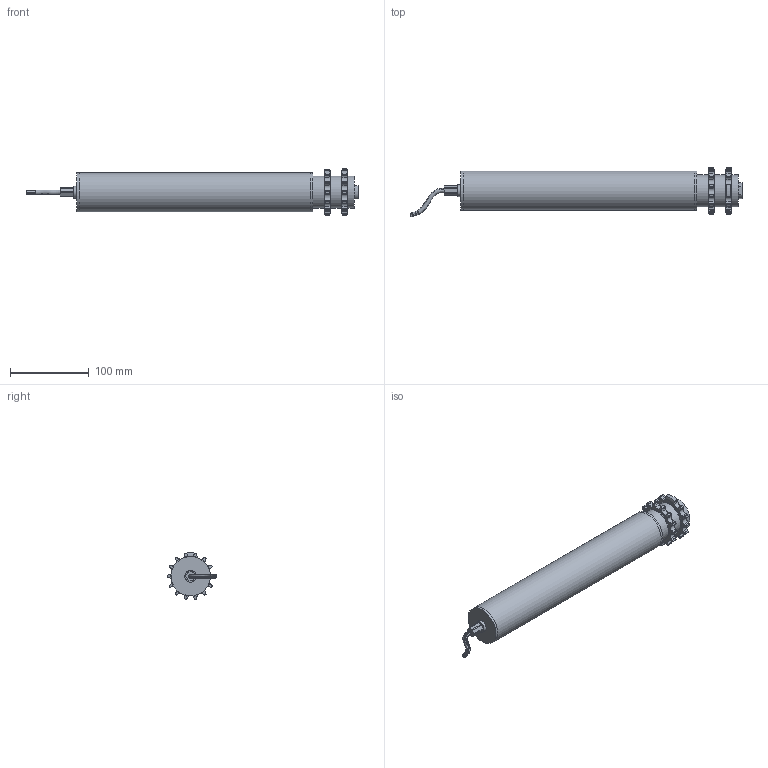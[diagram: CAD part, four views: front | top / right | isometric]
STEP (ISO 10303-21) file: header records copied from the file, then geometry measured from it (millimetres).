
FILE_DESCRIPTION(/* description */ (''),/* implementation_level */ '2;1');
FILE_NAME(/* name */ 'BLDG50-300链轮（08B 14T）.stp',/* time_stamp */ '2021-11-10T09:05:05+08:00',/* author */ (''),/* organization */ (''),/* preprocessor_version */ 'ST-DEVELOPER v16.7',/* originating_system */ 'SIEMENS PLM Software NX 1899',/* authorisation */ '');
FILE_SCHEMA (('AP203_CONFIGURATION_CONTROLLED_3D_DESIGN_OF_MECHANICAL_PARTS_AND_ASSEMBLIES_MIM_LF { 1 0 10303 403 2 1 2}'));
Length unit declared in the file: millimetre
Products named in the file (1): BLDG50-300链轮（08B  14T）
Bounding box: 422.02 x 63.37 x 59.49 mm (x, y, z)
Volume: 691327.2 mm3; surface area: 79818.3 mm2
Topology: 15 solids, 15 shells, 348 faces, 929 edges, 620 vertices
Faces by surface type: cylinder 178, plane 101, torus 58, bspline 9, cone 2
Full cylindrical faces by diameter (mm): 7 x1, 15 x1, 41 x3, 50 x3
Entity records: 13798 total; most frequent: CARTESIAN_POINT 5763, ORIENTED_EDGE 1804, DIRECTION 1354, EDGE_CURVE 902, VERTEX_POINT 616, AXIS2_PLACEMENT_3D 553, B_SPLINE_CURVE_WITH_KNOTS 432, EDGE_LOOP 382
